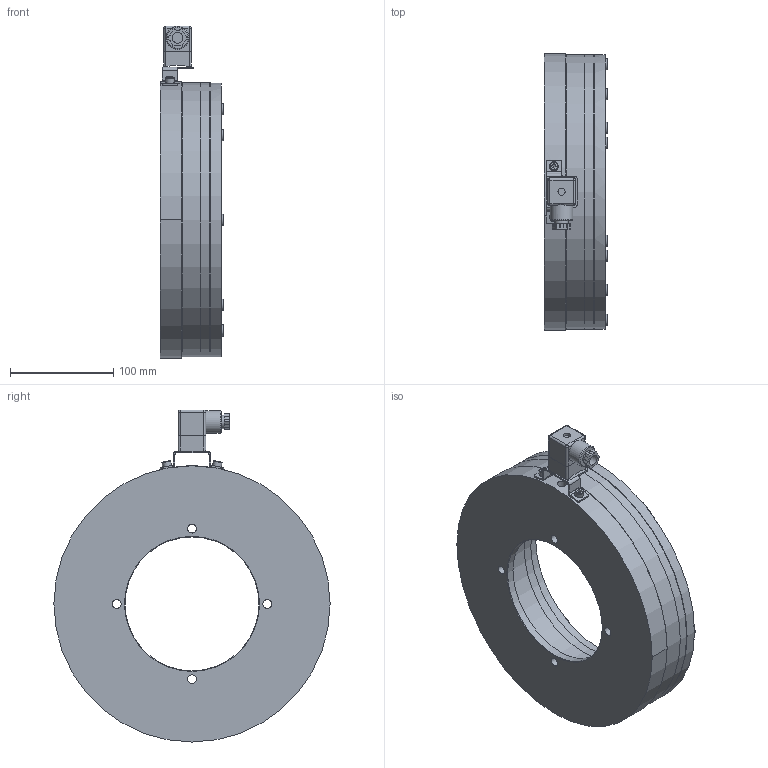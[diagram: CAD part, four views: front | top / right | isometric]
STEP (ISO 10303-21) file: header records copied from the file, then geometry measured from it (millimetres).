
FILE_DESCRIPTION(/* description */ (''),/* implementation_level */ '2;1');
FILE_NAME(/* name */ 'X:\INVENTOR\DISEGNI\08_Freni_Friz_Elettmag_Monodisco\08_28 EMFL_DF\EMFL_DF STEP\08_28_260_11 EMFL260_DF-B_S@STEP.stp',/* time_stamp */ '2018-04-23T16:07:35+02:00',/* author */ ('stefano'),/* organization */ (''),/* preprocessor_version */ 'ST-DEVELOPER v17',/* originating_system */ 'Autodesk Inventor 2018',/* authorisation */ '');
FILE_SCHEMA (('AUTOMOTIVE_DESIGN { 1 0 10303 214 3 1 1 }'));
Length unit declared in the file: millimetre
Products named in the file (1): 08_28_260_11 EMFL260_DF-B - Spina_Substitute_1
Bounding box: 62 x 268 x 322.16 mm (x, y, z)
Volume: 1709786.9 mm3; surface area: 355219.1 mm2
Topology: 2 solids, 2 shells, 485 faces, 1474 edges, 960 vertices
Faces by surface type: cylinder 283, plane 150, cone 41, torus 7, sphere 4
Full cylindrical faces by diameter (mm): 2 x1, 7 x13, 7.1 x24, 8.1 x6, 8.5 x6, 9 x2, 10.5 x1, 11 x36, 13 x1, 22 x1, 130 x1, 162 x2, 170 x1, 194 x1, 202.5 x2, 236.5 x2, 243 x1, 266 x3
Entity records: 18027 total; most frequent: CARTESIAN_POINT 3377, DIRECTION 3264, ORIENTED_EDGE 2920, EDGE_CURVE 1460, AXIS2_PLACEMENT_3D 1374, VERTEX_POINT 964, CIRCLE 888, EDGE_LOOP 598
